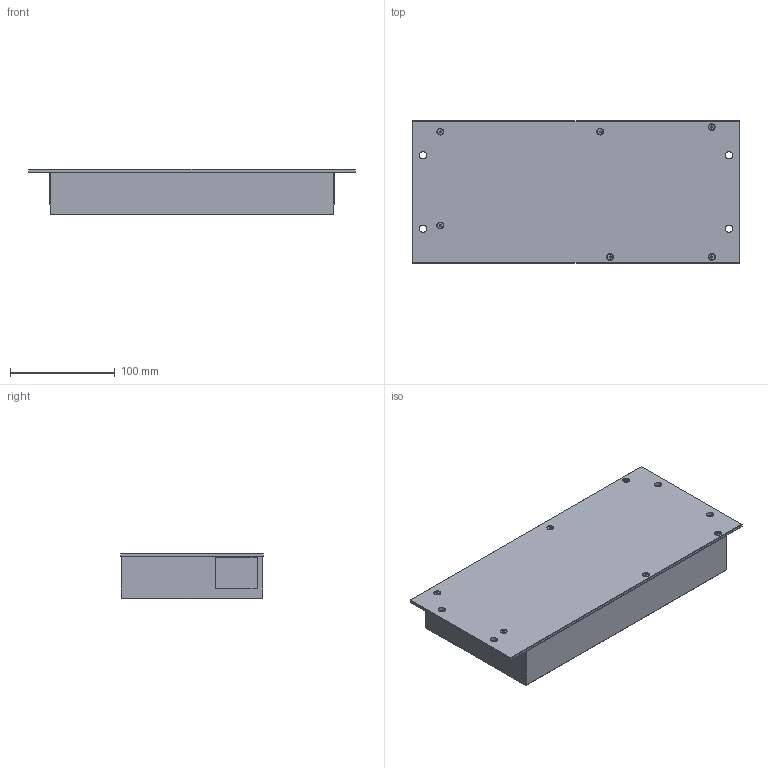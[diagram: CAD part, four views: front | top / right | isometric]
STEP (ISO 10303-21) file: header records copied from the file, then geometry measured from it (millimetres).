
FILE_DESCRIPTION (( 'STEP AP214' ), '1' );
FILE_NAME ('4326810swm000.step', '2021-07-07T15:13:05', ( 'Windows User' ), ( '' ), 'SwSTEP 2.0', 'SolidWorks 2020', '' );
FILE_SCHEMA (( 'AUTOMOTIVE_DESIGN' ));
Length unit declared in the file: millimetre
Products named in the file (4): 2510065swm000_ISO 10642 - M3 x 10 --- 10N; 4326982swm000_Standard; 4326810swm000; 4263721swm000_Standard
Assembly tree (8 placements, depth 2):
  4326810swm000
    4263721swm000_Standard
    2510065swm000_ISO 10642 - M3 x 10 --- 10N  x6
    4326982swm000_Standard
Bounding box: 312 x 136 x 43 mm (x, y, z)
Volume: 1593954.1 mm3; surface area: 193918 mm2
Topology: 8 solids, 8 shells, 242 faces, 540 edges, 306 vertices
Faces by surface type: plane 108, cylinder 70, cone 48, torus 12, sphere 4
Entity records: 3344 total; most frequent: DIRECTION 612, CARTESIAN_POINT 528, ORIENTED_EDGE 508, EDGE_CURVE 254, AXIS2_PLACEMENT_3D 235, VERTEX_POINT 151, VECTOR 142, LINE 142
